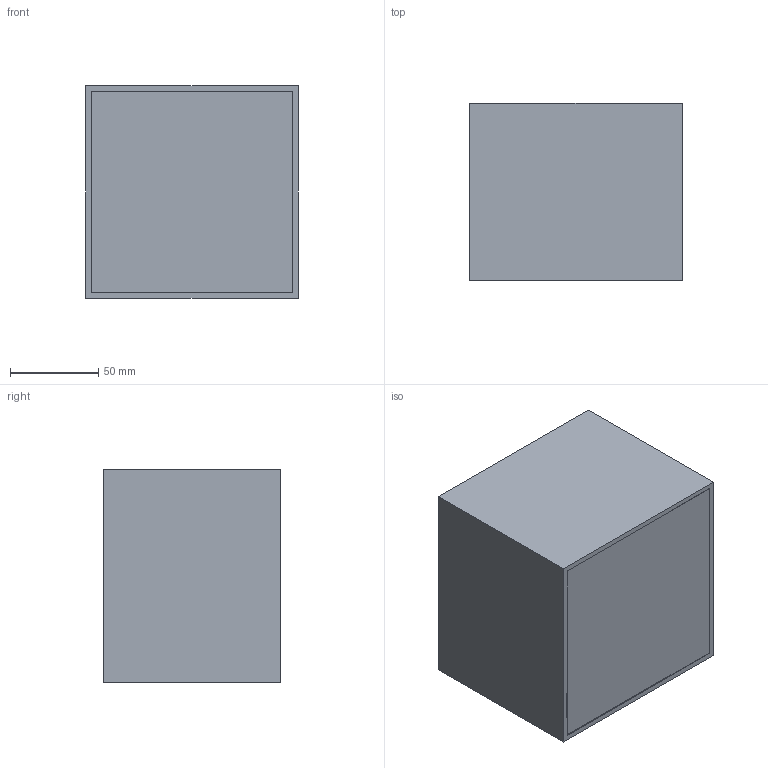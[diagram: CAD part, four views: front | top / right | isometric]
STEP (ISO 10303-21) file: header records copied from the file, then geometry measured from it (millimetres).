
FILE_DESCRIPTION (( 'STEP AP214' ), '1' );
FILE_NAME ('BOX BIG 3D MODEL.STEP', '2016-10-20T12:06:27', ( 'Utente' ), ( '' ), 'SwSTEP 2.0', 'SolidWorks 2016', '' );
FILE_SCHEMA (( 'AUTOMOTIVE_DESIGN' ));
Length unit declared in the file: millimetre
Products named in the file (1): BOX BIG 3D MODEL
Bounding box: 120 x 100 x 120 mm (x, y, z)
Volume: 179388 mm3; surface area: 121032 mm2
Topology: 1 solids, 1 shells, 16 faces, 36 edges, 24 vertices
Faces by surface type: plane 16
Entity records: 650 total; most frequent: CARTESIAN_POINT 77, ORIENTED_EDGE 72, DIRECTION 70, VECTOR 36, EDGE_CURVE 36, LINE 36, VERTEX_POINT 24, UNCERTAINTY_MEASURE_WITH_UNIT 19
